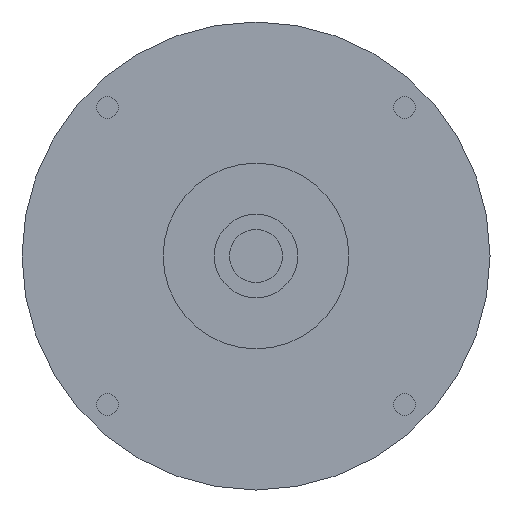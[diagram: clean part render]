
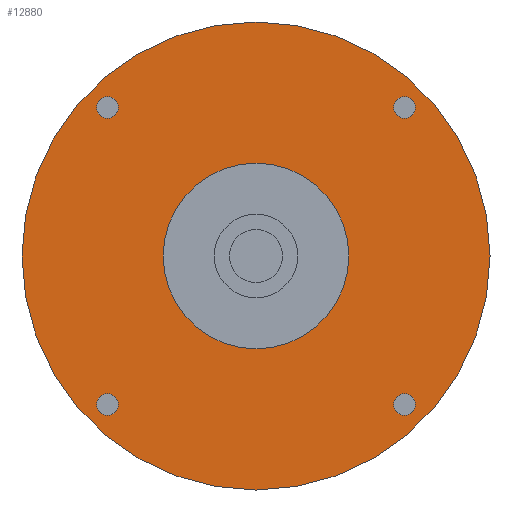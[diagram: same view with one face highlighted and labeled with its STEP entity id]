
A CAD part, left-side view. The second image highlights one B-rep face of the part: STEP entity #12880.
In plain terms, the highlighted planar face has unit normal (-1, 0, 0) as drawn and (0, 0, -1) by its records, which use the part's own axes.
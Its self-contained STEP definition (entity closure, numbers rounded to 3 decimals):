
#11760=CARTESIAN_POINT('',(-70.,0.,-59.701));
#11770=VERTEX_POINT('',#11760);
#11800=CARTESIAN_POINT('',(0.,0.,
-59.701));
#11810=DIRECTION('',(0.,0.,-1.));
#11820=DIRECTION('',(0.,-1.,0.));
#11830=AXIS2_PLACEMENT_3D('',#11800,#11810,#11820);
#11840=CIRCLE('',#11830,70.);
#11850=CARTESIAN_POINT('',(70.,0.,-59.701));
#11860=VERTEX_POINT('',#11850);
#11870=EDGE_CURVE('',#11770,#11860,#11840,.T.);
#11990=CARTESIAN_POINT('',(0.,0.,
-59.701));
#12000=DIRECTION('',(0.,0.,-1.));
#12010=DIRECTION('',(1.,0.,0.));
#12020=AXIS2_PLACEMENT_3D('',#11990,#12000,#12010);
#12030=PLANE('',#12020);
#12040=CARTESIAN_POINT('',(44.449,44.449,-59.701));
#12050=DIRECTION('',(0.,0.,-1.));
#12060=DIRECTION('',(0.,1.,0.));
#12070=AXIS2_PLACEMENT_3D('',#12040,#12050,#12060);
#12080=CIRCLE('',#12070,3.25);
#12090=CARTESIAN_POINT('',(44.449,47.699,-59.701));
#12100=VERTEX_POINT('',#12090);
#12110=CARTESIAN_POINT('',(44.449,41.199,-59.701));
#12120=VERTEX_POINT('',#12110);
#12130=EDGE_CURVE('',#12100,#12120,#12080,.T.);
#12140=ORIENTED_EDGE('',*,*,#12130,.F.);
#12150=EDGE_CURVE('',#12120,#12100,#12080,.T.);
#12160=ORIENTED_EDGE('',*,*,#12150,.F.);
#12170=EDGE_LOOP('',(#12160,#12140));
#12180=FACE_BOUND('',#12170,.T.);
#12190=CARTESIAN_POINT('',(-44.449,44.449,-59.701));
#12200=DIRECTION('',(0.,0.,-1.));
#12210=DIRECTION('',(-1.,0.,0.));
#12220=AXIS2_PLACEMENT_3D('',#12190,#12200,#12210);
#12230=CIRCLE('',#12220,3.25);
#12240=CARTESIAN_POINT('',(-47.699,44.449,-59.701));
#12250=VERTEX_POINT('',#12240);
#12260=CARTESIAN_POINT('',(-41.199,44.449,-59.701));
#12270=VERTEX_POINT('',#12260);
#12280=EDGE_CURVE('',#12250,#12270,#12230,.T.);
#12290=ORIENTED_EDGE('',*,*,#12280,.F.);
#12300=EDGE_CURVE('',#12270,#12250,#12230,.T.);
#12310=ORIENTED_EDGE('',*,*,#12300,.F.);
#12320=EDGE_LOOP('',(#12310,#12290));
#12330=FACE_BOUND('',#12320,.T.);
#12340=CARTESIAN_POINT('',(-44.449,-44.449,-59.701))
;
#12350=DIRECTION('',(0.,0.,-1.));
#12360=DIRECTION('',(0.,-1.,0.));
#12370=AXIS2_PLACEMENT_3D('',#12340,#12350,#12360);
#12380=CIRCLE('',#12370,3.25);
#12390=CARTESIAN_POINT('',(-44.449,-47.699,-59.701))
;
#12400=VERTEX_POINT('',#12390);
#12410=CARTESIAN_POINT('',(-44.449,-41.199,-59.701))
;
#12420=VERTEX_POINT('',#12410);
#12430=EDGE_CURVE('',#12400,#12420,#12380,.T.);
#12440=ORIENTED_EDGE('',*,*,#12430,.F.);
#12450=EDGE_CURVE('',#12420,#12400,#12380,.T.);
#12460=ORIENTED_EDGE('',*,*,#12450,.F.);
#12470=EDGE_LOOP('',(#12460,#12440));
#12480=FACE_BOUND('',#12470,.T.);
#12490=CARTESIAN_POINT('',(0.,0.,
-59.701));
#12500=DIRECTION('',(0.,0.,-1.));
#12510=DIRECTION('',(0.,1.,0.));
#12520=AXIS2_PLACEMENT_3D('',#12490,#12500,#12510);
#12530=CIRCLE('',#12520,27.76);
#12540=CARTESIAN_POINT('',(0.,27.76,-59.701));
#12550=VERTEX_POINT('',#12540);
#12560=CARTESIAN_POINT('',(0.,-27.76,-59.701));
#12570=VERTEX_POINT('',#12560);
#12580=EDGE_CURVE('',#12550,#12570,#12530,.T.);
#12590=ORIENTED_EDGE('',*,*,#12580,.F.);
#12600=EDGE_CURVE('',#12570,#12550,#12530,.T.);
#12610=ORIENTED_EDGE('',*,*,#12600,.F.);
#12620=EDGE_LOOP('',(#12610,#12590));
#12630=FACE_BOUND('',#12620,.T.);
#12640=CARTESIAN_POINT('',(44.449,-44.449,-59.701));
#12650=DIRECTION('',(0.,0.,-1.));
#12660=DIRECTION('',(1.,0.,0.));
#12670=AXIS2_PLACEMENT_3D('',#12640,#12650,#12660);
#12680=CIRCLE('',#12670,3.25);
#12690=CARTESIAN_POINT('',(47.699,-44.449,-59.701));
#12700=VERTEX_POINT('',#12690);
#12710=CARTESIAN_POINT('',(41.199,-44.449,-59.701));
#12720=VERTEX_POINT('',#12710);
#12730=EDGE_CURVE('',#12700,#12720,#12680,.T.);
#12740=ORIENTED_EDGE('',*,*,#12730,.F.);
#12750=EDGE_CURVE('',#12720,#12700,#12680,.T.);
#12760=ORIENTED_EDGE('',*,*,#12750,.F.);
#12770=EDGE_LOOP('',(#12760,#12740));
#12780=FACE_BOUND('',#12770,.T.);
#12790=ORIENTED_EDGE('',*,*,#11870,.T.);
#12800=CARTESIAN_POINT('',(0.,-70.,-59.701));
#12810=VERTEX_POINT('',#12800);
#12820=EDGE_CURVE('',#12810,#11770,#11840,.T.);
#12830=ORIENTED_EDGE('',*,*,#12820,.T.);
#12840=EDGE_CURVE('',#11860,#12810,#11840,.T.);
#12850=ORIENTED_EDGE('',*,*,#12840,.T.);
#12860=EDGE_LOOP('',(#12850,#12830,#12790));
#12870=FACE_OUTER_BOUND('',#12860,.T.);
#12880=ADVANCED_FACE('',(#12180,#12330,#12480,#12630,#12780,#12870),
#12030,.T.);
